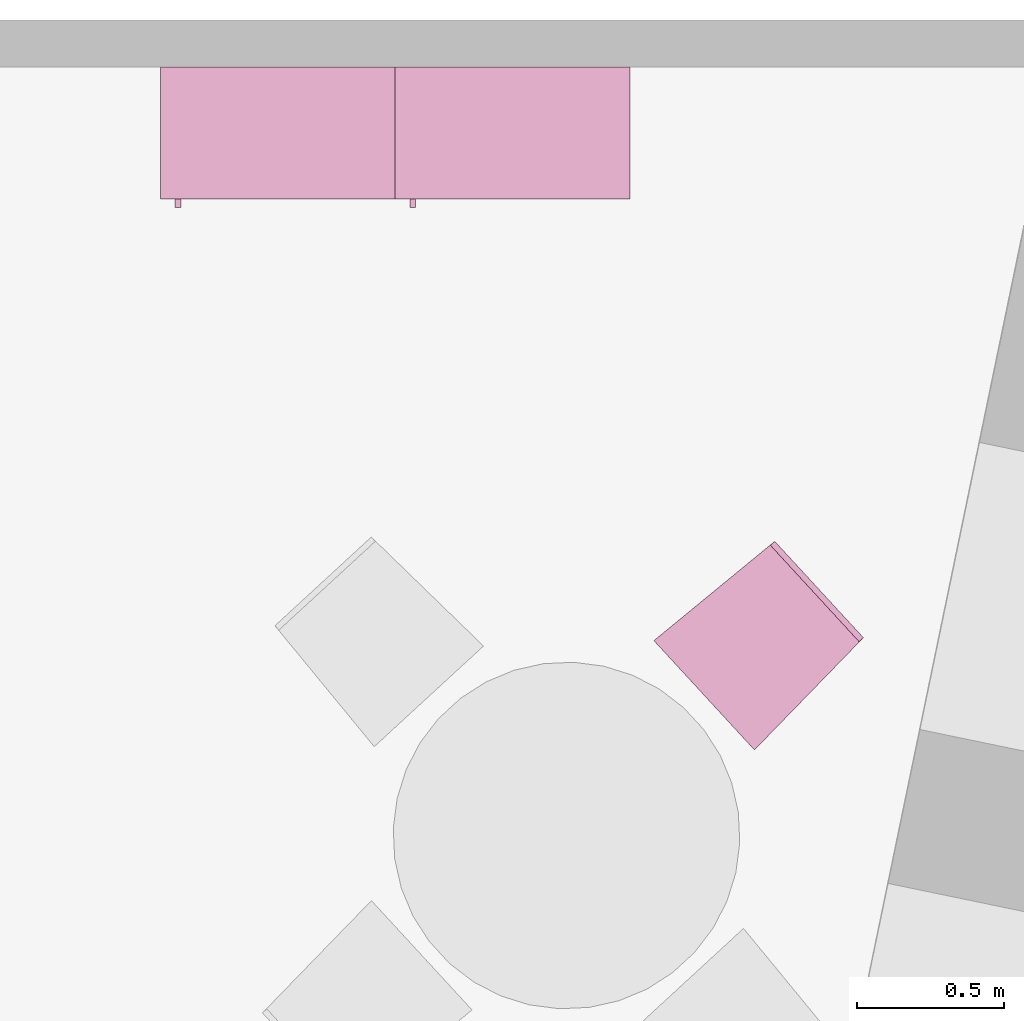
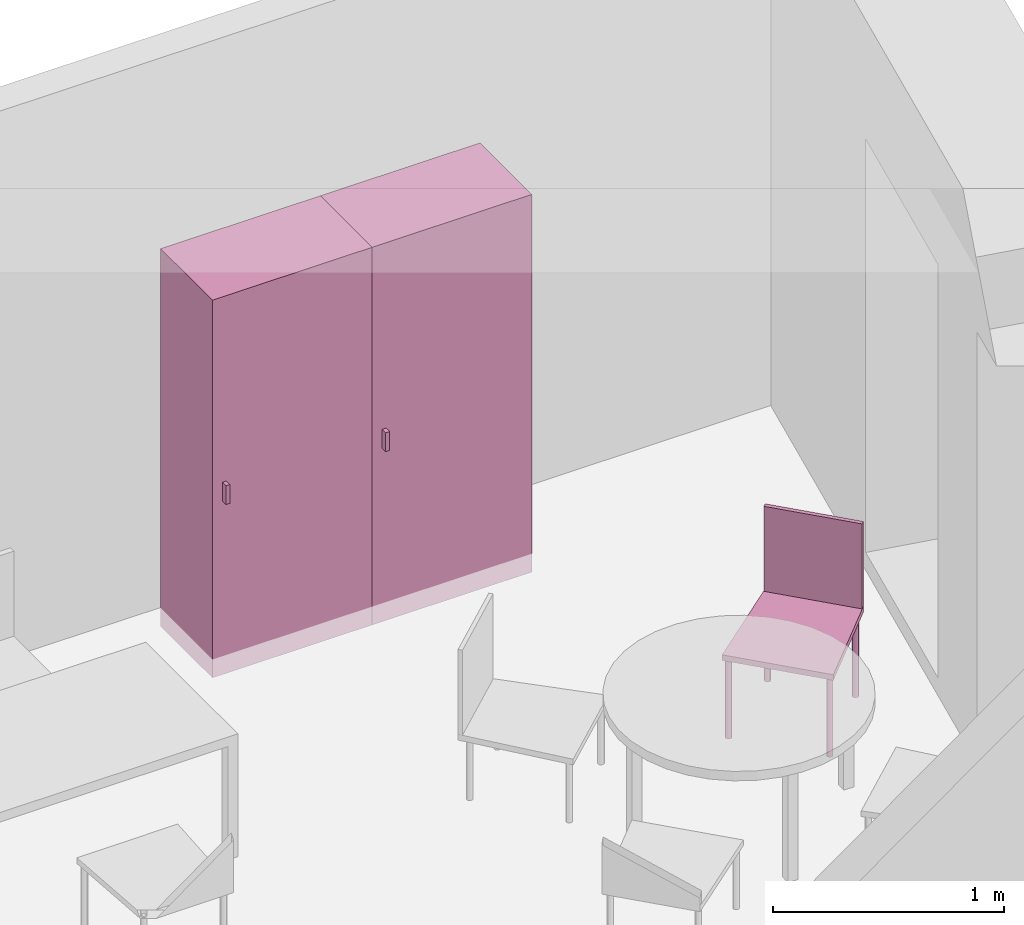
"""IFC4 building model written with IfcOpenShell, lengths in metres."""

from ifc_helpers import new_model, entity, si_unit, converted_unit, derived_unit, frame, origin, place, context, subcontext, project, spatial, faceted_brep, element, save


model = new_model("IFC4")

# Units and contexts
model_context = context("Model", 3, precision=1e-05, world=origin())
body_context = subcontext(model_context, "Body", "Model", "MODEL_VIEW")
ifc_project = project(units=[si_unit("LENGTHUNIT", "METRE"), si_unit("AREAUNIT", "SQUARE_METRE"), si_unit("VOLUMEUNIT", "CUBIC_METRE"), si_unit("MASSUNIT", "GRAM", prefix="KILO"), converted_unit("PLANEANGLEUNIT", "DEGREE", entity("IfcPlaneAngleMeasure", 0.0174532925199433), si_unit("PLANEANGLEUNIT", "RADIAN"), dimensions=[0, 0, 0, 0, 0, 0, 0]), derived_unit("THERMALTRANSMITTANCEUNIT", [(si_unit("POWERUNIT", "WATT"), 1), (si_unit("THERMODYNAMICTEMPERATUREUNIT", "KELVIN"), -1), (si_unit("LENGTHUNIT", "METRE"), -2)]), derived_unit("VOLUMETRICFLOWRATEUNIT", [(si_unit("LENGTHUNIT", "METRE"), 3), (converted_unit("TIMEUNIT", "hour", entity("IfcTimeMeasure", 3600.0), si_unit("TIMEUNIT", "SECOND"), dimensions=[0, 0, 1, 0, 0, 0, 0]), -1), (si_unit("LENGTHUNIT", "METRE"), -1)])], contexts=[model_context])

# Building, storeys
building_placement = place(None, origin())
building = spatial("IfcBuilding", under=ifc_project, at=building_placement, Name="HABITATGE PLURIFAMILIAR", CompositionType="ELEMENT")
storey_1_placement = place(building_placement, frame((0.0, 0.0, 9.26)))
storey_1 = spatial("IfcBuildingStorey", under=building, at=storey_1_placement, Name="PLANTA SEGONA", CompositionType="ELEMENT", Elevation=9.26)
storey_2_placement = place(storey_1_placement, frame((0.0, 0.0, 6.25)))
storey_2 = spatial("IfcBuildingStorey", under=storey_1, at=storey_2_placement, Name="NOU", CompositionType="PARTIAL")

# Furniture
furniture_1_placement = place(storey_2_placement, frame((423.755193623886, 27.5882479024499, -6.3499999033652)))
element("IfcFurniture", 1, at=furniture_1_placement, inside=storey_2, Name="Armai 80x45_P2", context=body_context, shape_type="Brep", body=[
    faceted_brep([(0.78, 0.05, 1.98), (0.78, 0.05, 0.02), (0.78, 0.03, 0.02), (0.78, 0.03, 1.98), (0.0, 0.05, 0.02), (0.0, 0.03, 0.02), (0.0, 0.05, 1.98), (0.0, 0.03, 1.98)], [[[0, 1, 2, 3]], [[1, 4, 5, 2]], [[4, 6, 7, 5]], [[6, 0, 3, 7]], [[0, 6, 4, 1]], [[3, 2, 5, 7]]], orient=[[False], [False], [False], [False], [False], [False]]),
    faceted_brep([(0.8, 0.0300000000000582, 1.98), (0.8, 0.0300000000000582, 0.02), (0.78, 0.0300000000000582, 0.02), (0.78, 0.0300000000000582, 1.98), (0.8, 0.480000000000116, 0.02), (0.78, 0.480000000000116, 0.02), (0.8, 0.480000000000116, 1.98), (0.78, 0.480000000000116, 1.98)], [[[0, 1, 2, 3]], [[1, 4, 5, 2]], [[4, 6, 7, 5]], [[6, 0, 3, 7]], [[0, 6, 4, 1]], [[3, 2, 5, 7]]], orient=[[False], [False], [False], [False], [False], [False]]),
    faceted_brep([(0.0, 0.0300000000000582, 0.02), (0.8, 0.0300000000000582, 0.02), (0.8, 0.0300000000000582, 0.0), (0.0, 0.0300000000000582, 0.0), (0.8, 0.480000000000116, 0.02), (0.8, 0.480000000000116, 0.0), (0.0, 0.480000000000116, 0.02), (0.0, 0.480000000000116, 0.0)], [[[0, 1, 2, 3]], [[1, 4, 5, 2]], [[4, 6, 7, 5]], [[6, 0, 3, 7]], [[0, 6, 4, 1]], [[3, 2, 5, 7]]], orient=[[False], [False], [False], [False], [False], [False]]),
    faceted_brep([(0.0, 0.03, 2.0), (0.8, 0.03, 2.0), (0.8, 0.03, 1.98), (0.0, 0.03, 1.98), (0.8, 0.480000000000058, 2.0), (0.8, 0.480000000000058, 1.98), (0.0, 0.480000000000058, 2.0), (0.0, 0.480000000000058, 1.98)], [[[0, 1, 2, 3]], [[1, 4, 5, 2]], [[4, 6, 7, 5]], [[6, 0, 3, 7]], [[0, 6, 4, 1]], [[3, 2, 5, 7]]], orient=[[False], [False], [False], [False], [False], [False]]),
    faceted_brep([(0.02, 0.0300000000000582, 1.98), (0.02, 0.0300000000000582, 0.02), (0.0, 0.0300000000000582, 0.02), (0.0, 0.0300000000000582, 1.98), (0.02, 0.480000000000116, 0.02), (0.0, 0.480000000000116, 0.02), (0.02, 0.480000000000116, 1.98), (0.0, 0.480000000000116, 1.98)], [[[0, 1, 2, 3]], [[1, 4, 5, 2]], [[4, 6, 7, 5]], [[6, 0, 3, 7]], [[0, 6, 4, 1]], [[3, 2, 5, 7]]], orient=[[False], [False], [False], [False], [False], [False]]),
    faceted_brep([(0.78, 0.480000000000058, 1.98), (0.78, 0.480000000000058, 0.02), (0.78, 0.460000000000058, 0.02), (0.78, 0.460000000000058, 1.98), (0.02, 0.480000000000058, 0.02), (0.02, 0.460000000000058, 0.02), (0.02, 0.480000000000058, 1.98), (0.02, 0.460000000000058, 1.98)], [[[0, 1, 2, 3]], [[1, 4, 5, 2]], [[4, 6, 7, 5]], [[6, 0, 3, 7]], [[0, 6, 4, 1]], [[3, 2, 5, 7]]], orient=[[False], [False], [False], [False], [False], [False]]),
    faceted_brep([(0.0, 0.0500000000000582, 1.98), (0.0, 0.0500000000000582, 0.02), (0.0, 0.0300000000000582, 0.02), (0.0, 0.0300000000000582, 1.98), (0.02, 0.0500000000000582, 0.02), (0.02, 0.0300000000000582, 0.02), (0.02, 0.0500000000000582, 1.98), (0.02, 0.0300000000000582, 1.98)], [[[0, 1, 2, 3]], [[1, 4, 5, 2]], [[4, 6, 7, 5]], [[6, 0, 3, 7]], [[0, 6, 4, 1]], [[3, 2, 5, 7]]], orient=[[False], [False], [False], [False], [False], [False]]),
    faceted_brep([(0.07, 0.03, 1.01806481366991), (0.07, 0.03, 0.918064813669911), (0.07, 0.0, 0.918064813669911), (0.07, 0.0, 1.01806481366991), (0.05, 0.03, 0.918064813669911), (0.05, 0.0, 0.918064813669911), (0.05, 0.03, 1.01806481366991), (0.05, 0.0, 1.01806481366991)], [[[0, 1, 2, 3]], [[1, 4, 5, 2]], [[4, 6, 7, 5]], [[6, 0, 3, 7]], [[0, 6, 4, 1]], [[3, 2, 5, 7]]], orient=[[False], [False], [False], [False], [False], [False]]),
])
furniture_2_placement = place(storey_2_placement, frame((424.555262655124, 27.5882479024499, -6.3499999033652)))
element("IfcFurniture", 2, at=furniture_2_placement, inside=storey_2, Name="Armai 80x45_P2", context=body_context, shape_type="Brep", body=[
    faceted_brep([(0.78, 0.05, 1.98), (0.78, 0.05, 0.02), (0.78, 0.03, 0.02), (0.78, 0.03, 1.98), (0.0, 0.05, 0.02), (0.0, 0.03, 0.02), (0.0, 0.05, 1.98), (0.0, 0.03, 1.98)], [[[0, 1, 2, 3]], [[1, 4, 5, 2]], [[4, 6, 7, 5]], [[6, 0, 3, 7]], [[0, 6, 4, 1]], [[3, 2, 5, 7]]], orient=[[False], [False], [False], [False], [False], [False]]),
    faceted_brep([(0.8, 0.0300000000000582, 1.98), (0.8, 0.0300000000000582, 0.02), (0.78, 0.0300000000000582, 0.02), (0.78, 0.0300000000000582, 1.98), (0.8, 0.480000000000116, 0.02), (0.78, 0.480000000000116, 0.02), (0.8, 0.480000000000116, 1.98), (0.78, 0.480000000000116, 1.98)], [[[0, 1, 2, 3]], [[1, 4, 5, 2]], [[4, 6, 7, 5]], [[6, 0, 3, 7]], [[0, 6, 4, 1]], [[3, 2, 5, 7]]], orient=[[False], [False], [False], [False], [False], [False]]),
    faceted_brep([(0.0, 0.0300000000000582, 0.02), (0.8, 0.0300000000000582, 0.02), (0.8, 0.0300000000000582, 0.0), (0.0, 0.0300000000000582, 0.0), (0.8, 0.480000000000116, 0.02), (0.8, 0.480000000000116, 0.0), (0.0, 0.480000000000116, 0.02), (0.0, 0.480000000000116, 0.0)], [[[0, 1, 2, 3]], [[1, 4, 5, 2]], [[4, 6, 7, 5]], [[6, 0, 3, 7]], [[0, 6, 4, 1]], [[3, 2, 5, 7]]], orient=[[False], [False], [False], [False], [False], [False]]),
    faceted_brep([(0.0, 0.03, 2.0), (0.8, 0.03, 2.0), (0.8, 0.03, 1.98), (0.0, 0.03, 1.98), (0.8, 0.480000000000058, 2.0), (0.8, 0.480000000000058, 1.98), (0.0, 0.480000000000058, 2.0), (0.0, 0.480000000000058, 1.98)], [[[0, 1, 2, 3]], [[1, 4, 5, 2]], [[4, 6, 7, 5]], [[6, 0, 3, 7]], [[0, 6, 4, 1]], [[3, 2, 5, 7]]], orient=[[False], [False], [False], [False], [False], [False]]),
    faceted_brep([(0.02, 0.0300000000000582, 1.98), (0.02, 0.0300000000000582, 0.02), (0.0, 0.0300000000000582, 0.02), (0.0, 0.0300000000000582, 1.98), (0.02, 0.480000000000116, 0.02), (0.0, 0.480000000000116, 0.02), (0.02, 0.480000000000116, 1.98), (0.0, 0.480000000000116, 1.98)], [[[0, 1, 2, 3]], [[1, 4, 5, 2]], [[4, 6, 7, 5]], [[6, 0, 3, 7]], [[0, 6, 4, 1]], [[3, 2, 5, 7]]], orient=[[False], [False], [False], [False], [False], [False]]),
    faceted_brep([(0.78, 0.480000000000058, 1.98), (0.78, 0.480000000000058, 0.02), (0.78, 0.460000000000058, 0.02), (0.78, 0.460000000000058, 1.98), (0.02, 0.480000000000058, 0.02), (0.02, 0.460000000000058, 0.02), (0.02, 0.480000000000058, 1.98), (0.02, 0.460000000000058, 1.98)], [[[0, 1, 2, 3]], [[1, 4, 5, 2]], [[4, 6, 7, 5]], [[6, 0, 3, 7]], [[0, 6, 4, 1]], [[3, 2, 5, 7]]], orient=[[False], [False], [False], [False], [False], [False]]),
    faceted_brep([(0.0, 0.0500000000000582, 1.98), (0.0, 0.0500000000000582, 0.02), (0.0, 0.0300000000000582, 0.02), (0.0, 0.0300000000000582, 1.98), (0.02, 0.0500000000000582, 0.02), (0.02, 0.0300000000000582, 0.02), (0.02, 0.0500000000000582, 1.98), (0.02, 0.0300000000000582, 1.98)], [[[0, 1, 2, 3]], [[1, 4, 5, 2]], [[4, 6, 7, 5]], [[6, 0, 3, 7]], [[0, 6, 4, 1]], [[3, 2, 5, 7]]], orient=[[False], [False], [False], [False], [False], [False]]),
    faceted_brep([(0.07, 0.03, 1.01806481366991), (0.07, 0.03, 0.918064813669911), (0.07, 0.0, 0.918064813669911), (0.07, 0.0, 1.01806481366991), (0.05, 0.03, 0.918064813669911), (0.05, 0.0, 0.918064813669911), (0.05, 0.03, 1.01806481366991), (0.05, 0.0, 1.01806481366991)], [[[0, 1, 2, 3]], [[1, 4, 5, 2]], [[4, 6, 7, 5]], [[6, 0, 3, 7]], [[0, 6, 4, 1]], [[3, 2, 5, 7]]], orient=[[False], [False], [False], [False], [False], [False]]),
])
furniture_3_placement = place(storey_2_placement, frame((425.437396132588, 25.7391053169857, -6.3514820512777)))
element("IfcFurniture", 3, at=furniture_3_placement, inside=storey_2, Name="Cadira confident_P2", context=body_context, shape_type="Brep", body=[
    faceted_brep([(0.3349720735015, 0.0458122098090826, 0.0), (0.333217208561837, 0.0438885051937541, 0.0), (0.331823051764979, 0.041689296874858, 0.0), (0.330831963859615, 0.0392814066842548, 0.0), (0.330274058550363, 0.0367379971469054, 0.0), (0.330166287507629, 0.0341363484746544, 0.0), (0.330511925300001, 0.0315555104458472, 0.0), (0.331300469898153, 0.0290739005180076, 0.0), (0.33250796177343, 0.0267669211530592, 0.0), (0.334097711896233, 0.0247046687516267, 0.0), (0.336021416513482, 0.0229498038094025, 0.0), (0.33822062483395, 0.021555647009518, 0.0), (0.340628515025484, 0.0205645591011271, 0.0), (0.343171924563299, 0.0200066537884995, 0.0), (0.345773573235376, 0.0198988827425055, 0.0), (0.348354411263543, 0.0202445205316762, 0.0), (0.350836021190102, 0.021033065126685, 0.0), (0.353143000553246, 0.0222405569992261, 0.0), (0.355205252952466, 0.023830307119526, 0.0), (0.356960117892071, 0.0257540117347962, 0.0), (0.358354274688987, 0.0279532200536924, 0.0), (0.359345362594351, 0.0303611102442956, 0.0), (0.359903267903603, 0.0329045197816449, 0.0), (0.360011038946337, 0.035506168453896, 0.0), (0.359665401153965, 0.0380870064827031, 0.0), (0.358876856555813, 0.0405686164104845, 0.0), (0.357669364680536, 0.0428755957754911, 0.0), (0.356079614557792, 0.0449378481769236, 0.0), (0.354155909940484, 0.0466927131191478, 0.0), (0.351956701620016, 0.0480868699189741, 0.0), (0.349548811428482, 0.0490779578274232, 0.0), (0.347005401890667, 0.0496358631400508, 0.0), (0.34440375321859, 0.0497436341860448, 0.0), (0.341822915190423, 0.0493979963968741, 0.0), (0.339341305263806, 0.0486094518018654, 0.0), (0.33703432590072, 0.0474019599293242, 0.0), (0.3349720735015, 0.0458122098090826, 0.448281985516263), (0.33703432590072, 0.0474019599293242, 0.448281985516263), (0.339341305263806, 0.0486094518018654, 0.448281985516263), (0.341822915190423, 0.0493979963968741, 0.448281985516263), (0.34440375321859, 0.0497436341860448, 0.448281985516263), (0.347005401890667, 0.0496358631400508, 0.448281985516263), (0.349548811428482, 0.0490779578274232, 0.448281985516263), (0.351956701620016, 0.0480868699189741, 0.448281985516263), (0.354155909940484, 0.0466927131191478, 0.448281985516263), (0.356079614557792, 0.0449378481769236, 0.448281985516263), (0.357669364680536, 0.0428755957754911, 0.448281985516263), (0.358876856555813, 0.0405686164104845, 0.448281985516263), (0.359665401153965, 0.0380870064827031, 0.448281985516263), (0.360011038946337, 0.035506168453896, 0.448281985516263), (0.359903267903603, 0.0329045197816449, 0.448281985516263), (0.359345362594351, 0.0303611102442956, 0.448281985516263), (0.358354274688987, 0.0279532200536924, 0.448281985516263), (0.356960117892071, 0.0257540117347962, 0.448281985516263), (0.355205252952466, 0.023830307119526, 0.448281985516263), (0.353143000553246, 0.0222405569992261, 0.448281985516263), (0.350836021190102, 0.021033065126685, 0.448281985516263), (0.348354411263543, 0.0202445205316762, 0.448281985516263), (0.345773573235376, 0.0198988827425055, 0.448281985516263), (0.343171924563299, 0.0200066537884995, 0.448281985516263), (0.340628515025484, 0.0205645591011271, 0.448281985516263), (0.33822062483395, 0.021555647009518, 0.448281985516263), (0.336021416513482, 0.0229498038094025, 0.448281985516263), (0.334097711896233, 0.0247046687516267, 0.448281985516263), (0.33250796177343, 0.0267669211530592, 0.448281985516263), (0.331300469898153, 0.0290739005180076, 0.448281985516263), (0.330511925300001, 0.0315555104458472, 0.448281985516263), (0.330166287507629, 0.0341363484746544, 0.448281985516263), (0.330274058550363, 0.0367379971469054, 0.448281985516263), (0.330831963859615, 0.0392814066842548, 0.448281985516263), (0.331823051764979, 0.041689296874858, 0.448281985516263), (0.333217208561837, 0.0438885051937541, 0.448281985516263)], [[[0, 1, 2, 3, 4, 5, 6, 7, 8, 9, 10, 11, 12, 13, 14, 15, 16, 17, 18, 19, 20, 21, 22, 23, 24, 25, 26, 27, 28, 29, 30, 31, 32, 33, 34, 35]], [[36, 37, 38, 39, 40, 41, 42, 43, 44, 45, 46, 47, 48, 49, 50, 51, 52, 53, 54, 55, 56, 57, 58, 59, 60, 61, 62, 63, 64, 65, 66, 67, 68, 69, 70, 71]], [[35, 37, 36, 0]], [[34, 38, 37, 35]], [[33, 39, 38, 34]], [[32, 40, 39, 33]], [[31, 41, 40, 32]], [[30, 42, 41, 31]], [[29, 43, 42, 30]], [[28, 44, 43, 29]], [[27, 45, 44, 28]], [[26, 46, 45, 27]], [[25, 47, 46, 26]], [[24, 48, 47, 25]], [[23, 49, 48, 24]], [[22, 50, 49, 23]], [[21, 51, 50, 22]], [[20, 52, 51, 21]], [[19, 53, 52, 20]], [[18, 54, 53, 19]], [[17, 55, 54, 18]], [[16, 56, 55, 17]], [[15, 57, 56, 16]], [[14, 58, 57, 15]], [[13, 59, 58, 14]], [[12, 60, 59, 13]], [[11, 61, 60, 12]], [[10, 62, 61, 11]], [[9, 63, 62, 10]], [[8, 64, 63, 9]], [[7, 65, 64, 8]], [[6, 66, 65, 7]], [[5, 67, 66, 6]], [[4, 68, 67, 5]], [[3, 69, 68, 4]], [[2, 70, 69, 3]], [[1, 71, 70, 2]], [[0, 36, 71, 1]]], orient=[[False], [False], [False], [False], [False], [False], [False], [False], [False], [False], [False], [False], [False], [False], [False], [False], [False], [False], [False], [False], [False], [False], [False], [False], [False], [False], [False], [False], [False], [False], [False], [False], [False], [False], [False], [False], [False], [False]]),
    faceted_brep([(0.656478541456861, 0.379305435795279, 0.0), (0.654723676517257, 0.37738173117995, 0.0), (0.653329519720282, 0.375182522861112, 0.0), (0.652338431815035, 0.372774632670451, 0.0), (0.651780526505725, 0.37023122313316, 0.0), (0.651672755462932, 0.367629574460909, 0.0), (0.652018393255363, 0.365048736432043, 0.0), (0.652806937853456, 0.362567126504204, 0.0), (0.654014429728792, 0.360260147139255, 0.0), (0.655604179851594, 0.358197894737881, 0.0), (0.657527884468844, 0.356443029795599, 0.0), (0.659727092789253, 0.355048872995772, 0.0), (0.662134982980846, 0.354057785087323, 0.0), (0.664678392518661, 0.353499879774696, 0.0), (0.667280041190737, 0.353392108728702, 0.0), (0.669860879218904, 0.353737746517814, 0.0), (0.672342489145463, 0.354526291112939, 0.0), (0.674649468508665, 0.355733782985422, 0.0), (0.676711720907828, 0.357323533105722, 0.0), (0.678466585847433, 0.359247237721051, 0.0), (0.679860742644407, 0.361446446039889, 0.0), (0.680851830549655, 0.363854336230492, 0.0), (0.681409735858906, 0.366397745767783, 0.0), (0.681517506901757, 0.368999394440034, 0.0), (0.681171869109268, 0.371580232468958, 0.0), (0.680383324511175, 0.374061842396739, 0.0), (0.679175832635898, 0.376368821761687, 0.0), (0.677586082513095, 0.37843107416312, 0.0), (0.675662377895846, 0.380185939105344, 0.0), (0.673463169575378, 0.38158009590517, 0.0), (0.671055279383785, 0.382571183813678, 0.0), (0.668511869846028, 0.383129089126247, 0.0), (0.665910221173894, 0.383236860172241, 0.0), (0.663329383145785, 0.382891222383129, 0.0), (0.660847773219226, 0.382102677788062, 0.0), (0.658540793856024, 0.380895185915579, 0.0), (0.656478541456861, 0.379305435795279, 0.448281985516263), (0.658540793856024, 0.380895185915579, 0.448281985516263), (0.660847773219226, 0.382102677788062, 0.448281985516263), (0.663329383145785, 0.382891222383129, 0.448281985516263), (0.665910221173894, 0.383236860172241, 0.448281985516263), (0.668511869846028, 0.383129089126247, 0.448281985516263), (0.671055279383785, 0.382571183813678, 0.448281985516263), (0.673463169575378, 0.38158009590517, 0.448281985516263), (0.675662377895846, 0.380185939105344, 0.448281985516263), (0.677586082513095, 0.37843107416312, 0.448281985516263), (0.679175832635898, 0.376368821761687, 0.448281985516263), (0.680383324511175, 0.374061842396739, 0.448281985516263), (0.681171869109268, 0.371580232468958, 0.448281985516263), (0.681517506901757, 0.368999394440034, 0.448281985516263), (0.681409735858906, 0.366397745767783, 0.448281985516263), (0.680851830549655, 0.363854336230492, 0.448281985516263), (0.679860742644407, 0.361446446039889, 0.448281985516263), (0.678466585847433, 0.359247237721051, 0.448281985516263), (0.676711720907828, 0.357323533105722, 0.448281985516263), (0.674649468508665, 0.355733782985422, 0.448281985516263), (0.672342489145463, 0.354526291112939, 0.448281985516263), (0.669860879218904, 0.353737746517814, 0.448281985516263), (0.667280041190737, 0.353392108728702, 0.448281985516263), (0.664678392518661, 0.353499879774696, 0.448281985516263), (0.662134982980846, 0.354057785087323, 0.448281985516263), (0.659727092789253, 0.355048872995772, 0.448281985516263), (0.657527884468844, 0.356443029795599, 0.448281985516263), (0.655604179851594, 0.358197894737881, 0.448281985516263), (0.654014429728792, 0.360260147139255, 0.448281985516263), (0.652806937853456, 0.362567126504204, 0.448281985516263), (0.652018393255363, 0.365048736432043, 0.448281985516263), (0.651672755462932, 0.367629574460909, 0.448281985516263), (0.651780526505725, 0.37023122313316, 0.448281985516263), (0.652338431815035, 0.372774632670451, 0.448281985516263), (0.653329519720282, 0.375182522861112, 0.448281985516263), (0.654723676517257, 0.37738173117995, 0.448281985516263)], [[[0, 1, 2, 3, 4, 5, 6, 7, 8, 9, 10, 11, 12, 13, 14, 15, 16, 17, 18, 19, 20, 21, 22, 23, 24, 25, 26, 27, 28, 29, 30, 31, 32, 33, 34, 35]], [[36, 37, 38, 39, 40, 41, 42, 43, 44, 45, 46, 47, 48, 49, 50, 51, 52, 53, 54, 55, 56, 57, 58, 59, 60, 61, 62, 63, 64, 65, 66, 67, 68, 69, 70, 71]], [[35, 37, 36, 0]], [[34, 38, 37, 35]], [[33, 39, 38, 34]], [[32, 40, 39, 33]], [[31, 41, 40, 32]], [[30, 42, 41, 31]], [[29, 43, 42, 30]], [[28, 44, 43, 29]], [[27, 45, 44, 28]], [[26, 46, 45, 27]], [[25, 47, 46, 26]], [[24, 48, 47, 25]], [[23, 49, 48, 24]], [[22, 50, 49, 23]], [[21, 51, 50, 22]], [[20, 52, 51, 21]], [[19, 53, 52, 20]], [[18, 54, 53, 19]], [[17, 55, 54, 18]], [[16, 56, 55, 17]], [[15, 57, 56, 16]], [[14, 58, 57, 15]], [[13, 59, 58, 14]], [[12, 60, 59, 13]], [[11, 61, 60, 12]], [[10, 62, 61, 11]], [[9, 63, 62, 10]], [[8, 64, 63, 9]], [[7, 65, 64, 8]], [[6, 66, 65, 7]], [[5, 67, 66, 6]], [[4, 68, 67, 5]], [[3, 69, 68, 4]], [[2, 70, 69, 3]], [[1, 71, 70, 2]], [[0, 36, 71, 1]]], orient=[[False], [False], [False], [False], [False], [False], [False], [False], [False], [False], [False], [False], [False], [False], [False], [False], [False], [False], [False], [False], [False], [False], [False], [False], [False], [False], [False], [False], [False], [False], [False], [False], [False], [False], [False], [False], [False], [False]]),
    faceted_brep([(0.0234441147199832, 0.384265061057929, 0.0), (0.0216892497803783, 0.382341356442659, 0.0), (0.0202950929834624, 0.380142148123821, 0.0), (0.0193040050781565, 0.37773425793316, 0.0), (0.018746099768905, 0.375190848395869, 0.0), (0.0186383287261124, 0.372589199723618, 0.0), (0.0189839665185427, 0.370008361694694, 0.0), (0.0197725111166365, 0.367526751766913, 0.0), (0.0209800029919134, 0.365219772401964, 0.0), (0.0225697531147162, 0.363157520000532, 0.0), (0.0244934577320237, 0.361402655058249, 0.0), (0.026692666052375, 0.360008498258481, 0.0), (0.0291005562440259, 0.359017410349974, 0.0), (0.0316439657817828, 0.358459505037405, 0.0), (0.0342456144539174, 0.358351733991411, 0.0), (0.0368264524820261, 0.358697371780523, 0.0), (0.0393080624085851, 0.35948591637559, 0.0), (0.0416150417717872, 0.360693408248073, 0.0), (0.0436772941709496, 0.362283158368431, 0.0), (0.0454321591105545, 0.364206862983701, 0.0), (0.0468263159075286, 0.366406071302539, 0.0), (0.0478174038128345, 0.368813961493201, 0.0), (0.048375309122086, 0.371357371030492, 0.0), (0.0484830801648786, 0.373959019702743, 0.0), (0.0481374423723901, 0.376539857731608, 0.0), (0.0473488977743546, 0.379021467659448, 0.0), (0.0461414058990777, 0.381328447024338, 0.0), (0.0445516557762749, 0.38339069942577, 0.0), (0.0426279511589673, 0.385145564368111, 0.0), (0.0404287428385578, 0.386539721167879, 0.0), (0.0380208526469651, 0.387530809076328, 0.0), (0.03547744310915, 0.388088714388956, 0.0), (0.0328757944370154, 0.38819648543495, 0.0), (0.0302949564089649, 0.387850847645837, 0.0), (0.0278133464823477, 0.38706230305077, 0.0), (0.0255063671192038, 0.385854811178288, 0.0), (0.0234441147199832, 0.384265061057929, 0.448281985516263), (0.0255063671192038, 0.385854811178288, 0.448281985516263), (0.0278133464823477, 0.38706230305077, 0.448281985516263), (0.0302949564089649, 0.387850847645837, 0.448281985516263), (0.0328757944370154, 0.38819648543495, 0.448281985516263), (0.03547744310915, 0.388088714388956, 0.448281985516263), (0.0380208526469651, 0.387530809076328, 0.448281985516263), (0.0404287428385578, 0.386539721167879, 0.448281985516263), (0.0426279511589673, 0.385145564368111, 0.448281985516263), (0.0445516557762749, 0.38339069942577, 0.448281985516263), (0.0461414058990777, 0.381328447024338, 0.448281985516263), (0.0473488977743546, 0.379021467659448, 0.448281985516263), (0.0481374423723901, 0.376539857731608, 0.448281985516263), (0.0484830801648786, 0.373959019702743, 0.448281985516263), (0.048375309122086, 0.371357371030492, 0.448281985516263), (0.0478174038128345, 0.368813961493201, 0.448281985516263), (0.0468263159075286, 0.366406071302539, 0.448281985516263), (0.0454321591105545, 0.364206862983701, 0.448281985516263), (0.0436772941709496, 0.362283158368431, 0.448281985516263), (0.0416150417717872, 0.360693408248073, 0.448281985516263), (0.0393080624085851, 0.35948591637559, 0.448281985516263), (0.0368264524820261, 0.358697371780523, 0.448281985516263), (0.0342456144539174, 0.358351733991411, 0.448281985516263), (0.0316439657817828, 0.358459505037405, 0.448281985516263), (0.0291005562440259, 0.359017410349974, 0.448281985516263), (0.026692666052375, 0.360008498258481, 0.448281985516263), (0.0244934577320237, 0.361402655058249, 0.448281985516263), (0.0225697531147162, 0.363157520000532, 0.448281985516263), (0.0209800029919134, 0.365219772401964, 0.448281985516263), (0.0197725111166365, 0.367526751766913, 0.448281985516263), (0.0189839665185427, 0.370008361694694, 0.448281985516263), (0.0186383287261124, 0.372589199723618, 0.448281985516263), (0.018746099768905, 0.375190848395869, 0.448281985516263), (0.0193040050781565, 0.37773425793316, 0.448281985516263), (0.0202950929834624, 0.380142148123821, 0.448281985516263), (0.0216892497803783, 0.382341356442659, 0.448281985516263)], [[[0, 1, 2, 3, 4, 5, 6, 7, 8, 9, 10, 11, 12, 13, 14, 15, 16, 17, 18, 19, 20, 21, 22, 23, 24, 25, 26, 27, 28, 29, 30, 31, 32, 33, 34, 35]], [[36, 37, 38, 39, 40, 41, 42, 43, 44, 45, 46, 47, 48, 49, 50, 51, 52, 53, 54, 55, 56, 57, 58, 59, 60, 61, 62, 63, 64, 65, 66, 67, 68, 69, 70, 71]], [[35, 37, 36, 0]], [[34, 38, 37, 35]], [[33, 39, 38, 34]], [[32, 40, 39, 33]], [[31, 41, 40, 32]], [[30, 42, 41, 31]], [[29, 43, 42, 30]], [[28, 44, 43, 29]], [[27, 45, 44, 28]], [[26, 46, 45, 27]], [[25, 47, 46, 26]], [[24, 48, 47, 25]], [[23, 49, 48, 24]], [[22, 50, 49, 23]], [[21, 51, 50, 22]], [[20, 52, 51, 21]], [[19, 53, 52, 20]], [[18, 54, 53, 19]], [[17, 55, 54, 18]], [[16, 56, 55, 17]], [[15, 57, 56, 16]], [[14, 58, 57, 15]], [[13, 59, 58, 14]], [[12, 60, 59, 13]], [[11, 61, 60, 12]], [[10, 62, 61, 11]], [[9, 63, 62, 10]], [[8, 64, 63, 9]], [[7, 65, 64, 8]], [[6, 66, 65, 7]], [[5, 67, 66, 6]], [[4, 68, 67, 5]], [[3, 69, 68, 4]], [[2, 70, 69, 3]], [[1, 71, 70, 2]], [[0, 36, 71, 1]]], orient=[[False], [False], [False], [False], [False], [False], [False], [False], [False], [False], [False], [False], [False], [False], [False], [False], [False], [False], [False], [False], [False], [False], [False], [False], [False], [False], [False], [False], [False], [False], [False], [False], [False], [False], [False], [False], [False], [False]]),
    faceted_brep([(0.385584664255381, 0.673612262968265, 0.0), (0.383829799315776, 0.671688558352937, 0.0), (0.382435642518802, 0.669489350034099, 0.0), (0.381444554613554, 0.667081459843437, 0.0), (0.380886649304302, 0.664538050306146, 0.0), (0.38077887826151, 0.661936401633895, 0.0), (0.38112451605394, 0.65935556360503, 0.0), (0.381913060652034, 0.656873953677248, 0.0), (0.383120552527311, 0.6545669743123, 0.0), (0.384710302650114, 0.652504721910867, 0.0), (0.386634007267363, 0.650749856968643, 0.0), (0.388833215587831, 0.649355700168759, 0.0), (0.391241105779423, 0.64836461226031, 0.0), (0.39378451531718, 0.64780670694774, 0.0), (0.396386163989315, 0.647698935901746, 0.0), (0.398967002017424, 0.648044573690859, 0.0), (0.401448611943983, 0.648833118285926, 0.0), (0.403755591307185, 0.650040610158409, 0.0), (0.405817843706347, 0.651630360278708, 0.0), (0.407572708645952, 0.653554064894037, 0.0), (0.408966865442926, 0.655753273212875, 0.0), (0.409957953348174, 0.658161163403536, 0.0), (0.410515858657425, 0.660704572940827, 0.0), (0.410623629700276, 0.663306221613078, 0.0), (0.410277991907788, 0.665887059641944, 0.0), (0.409489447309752, 0.668368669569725, 0.0), (0.408281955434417, 0.670675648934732, 0.0), (0.406692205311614, 0.672737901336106, 0.0), (0.404768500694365, 0.674492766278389, 0.0), (0.402569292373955, 0.675886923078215, 0.0), (0.400161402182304, 0.676878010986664, 0.0), (0.397617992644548, 0.677435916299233, 0.0), (0.395016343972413, 0.677543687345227, 0.0), (0.392435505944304, 0.677198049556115, 0.0), (0.389953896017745, 0.676409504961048, 0.0), (0.387646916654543, 0.675202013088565, 0.0), (0.385584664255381, 0.673612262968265, 0.448281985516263), (0.387646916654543, 0.675202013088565, 0.448281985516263), (0.389953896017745, 0.676409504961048, 0.448281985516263), (0.392435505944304, 0.677198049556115, 0.448281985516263), (0.395016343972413, 0.677543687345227, 0.448281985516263), (0.397617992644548, 0.677435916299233, 0.448281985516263), (0.400161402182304, 0.676878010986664, 0.448281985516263), (0.402569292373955, 0.675886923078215, 0.448281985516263), (0.404768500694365, 0.674492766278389, 0.448281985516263), (0.406692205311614, 0.672737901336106, 0.448281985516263), (0.408281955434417, 0.670675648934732, 0.448281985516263), (0.409489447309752, 0.668368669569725, 0.448281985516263), (0.410277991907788, 0.665887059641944, 0.448281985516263), (0.410623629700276, 0.663306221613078, 0.448281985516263), (0.410515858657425, 0.660704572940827, 0.448281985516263), (0.409957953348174, 0.658161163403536, 0.448281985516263), (0.408966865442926, 0.655753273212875, 0.448281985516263), (0.407572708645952, 0.653554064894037, 0.448281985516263), (0.405817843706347, 0.651630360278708, 0.448281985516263), (0.403755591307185, 0.650040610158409, 0.448281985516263), (0.401448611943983, 0.648833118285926, 0.448281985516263), (0.398967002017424, 0.648044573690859, 0.448281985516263), (0.396386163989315, 0.647698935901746, 0.448281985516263), (0.39378451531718, 0.64780670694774, 0.448281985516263), (0.391241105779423, 0.64836461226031, 0.448281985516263), (0.388833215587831, 0.649355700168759, 0.448281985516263), (0.386634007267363, 0.650749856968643, 0.448281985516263), (0.384710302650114, 0.652504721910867, 0.448281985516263), (0.383120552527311, 0.6545669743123, 0.448281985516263), (0.381913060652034, 0.656873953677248, 0.448281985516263), (0.38112451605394, 0.65935556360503, 0.448281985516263), (0.38077887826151, 0.661936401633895, 0.448281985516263), (0.380886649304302, 0.664538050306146, 0.448281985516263), (0.381444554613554, 0.667081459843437, 0.448281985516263), (0.382435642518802, 0.669489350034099, 0.448281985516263), (0.383829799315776, 0.671688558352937, 0.448281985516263)], [[[0, 1, 2, 3, 4, 5, 6, 7, 8, 9, 10, 11, 12, 13, 14, 15, 16, 17, 18, 19, 20, 21, 22, 23, 24, 25, 26, 27, 28, 29, 30, 31, 32, 33, 34, 35]], [[36, 37, 38, 39, 40, 41, 42, 43, 44, 45, 46, 47, 48, 49, 50, 51, 52, 53, 54, 55, 56, 57, 58, 59, 60, 61, 62, 63, 64, 65, 66, 67, 68, 69, 70, 71]], [[35, 37, 36, 0]], [[34, 38, 37, 35]], [[33, 39, 38, 34]], [[32, 40, 39, 33]], [[31, 41, 40, 32]], [[30, 42, 41, 31]], [[29, 43, 42, 30]], [[28, 44, 43, 29]], [[27, 45, 44, 28]], [[26, 46, 45, 27]], [[25, 47, 46, 26]], [[24, 48, 47, 25]], [[23, 49, 48, 24]], [[22, 50, 49, 23]], [[21, 51, 50, 22]], [[20, 52, 51, 21]], [[19, 53, 52, 20]], [[18, 54, 53, 19]], [[17, 55, 54, 18]], [[16, 56, 55, 17]], [[15, 57, 56, 16]], [[14, 58, 57, 15]], [[13, 59, 58, 14]], [[12, 60, 59, 13]], [[11, 61, 60, 12]], [[10, 62, 61, 11]], [[9, 63, 62, 10]], [[8, 64, 63, 9]], [[7, 65, 64, 8]], [[6, 66, 65, 7]], [[5, 67, 66, 6]], [[4, 68, 67, 5]], [[3, 69, 68, 4]], [[2, 70, 69, 3]], [[1, 71, 70, 2]], [[0, 36, 71, 1]]], orient=[[False], [False], [False], [False], [False], [False], [False], [False], [False], [False], [False], [False], [False], [False], [False], [False], [False], [False], [False], [False], [False], [False], [False], [False], [False], [False], [False], [False], [False], [False], [False], [False], [False], [False], [False], [False], [False], [False]]),
    faceted_brep([(0.412192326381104, 0.71130437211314, 0.418281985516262), (0.0, 0.372676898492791, 0.418281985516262), (0.343029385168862, 0.0, 0.418281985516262), (0.714587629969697, 0.382773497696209, 0.418281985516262), (0.0, 0.372676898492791, 0.448281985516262), (0.412192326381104, 0.71130437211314, 0.448281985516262), (0.714587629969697, 0.382773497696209, 0.448281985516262), (0.343029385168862, 0.0, 0.448281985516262)], [[[0, 1, 2, 3]], [[4, 5, 6, 7]], [[1, 0, 5, 4]], [[2, 1, 4, 7]], [[3, 2, 7, 6]], [[0, 3, 6, 5]]], orient=[[False], [False], [False], [False], [False], [False]]),
    faceted_brep([(0.397476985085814, 0.697759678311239, 0.448281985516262), (0.699872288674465, 0.369228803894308, 0.448281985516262), (0.714587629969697, 0.382773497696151, 0.448281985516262), (0.412192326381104, 0.71130437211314, 0.448281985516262), (0.699872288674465, 0.369228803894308, 0.898281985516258), (0.397476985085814, 0.697759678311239, 0.898281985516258), (0.412192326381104, 0.71130437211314, 0.898281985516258), (0.714587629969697, 0.382773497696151, 0.898281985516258)], [[[0, 1, 2, 3]], [[4, 5, 6, 7]], [[1, 0, 5, 4]], [[2, 1, 4, 7]], [[3, 2, 7, 6]], [[0, 3, 6, 5]]], orient=[[False], [False], [False], [False], [False], [False]]),
])

save(model, "model.ifc")
